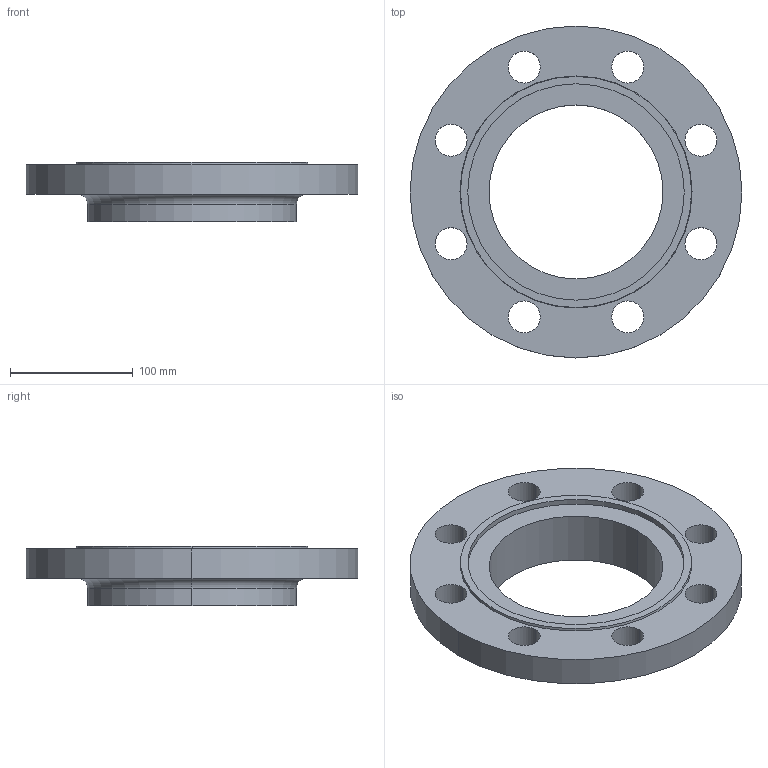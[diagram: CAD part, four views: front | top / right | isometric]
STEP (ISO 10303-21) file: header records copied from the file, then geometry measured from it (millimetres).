
FILE_DESCRIPTION (( 'STEP AP214' ), '1' );
FILE_NAME ('PN40 DN125 Type 12 - Type F Face.STEP', '2019-01-02T02:11:23', ( '' ), ( '' ), 'SwSTEP 2.0', 'SolidWorks 2019', '' );
FILE_SCHEMA (( 'AUTOMOTIVE_DESIGN' ));
Length unit declared in the file: millimetre
Products named in the file (1): PN40 DN125 Type 12 - Type F Face
Bounding box: 270 x 270 x 48 mm (x, y, z)
Volume: 1041231.8 mm3; surface area: 143368.4 mm2
Topology: 1 solids, 1 shells, 33 faces, 82 edges, 54 vertices
Faces by surface type: cylinder 24, plane 5, torus 2, cone 2
Entity records: 1086 total; most frequent: DIRECTION 206, CARTESIAN_POINT 170, ORIENTED_EDGE 164, AXIS2_PLACEMENT_3D 90, EDGE_CURVE 82, CIRCLE 56, EDGE_LOOP 54, VERTEX_POINT 54
